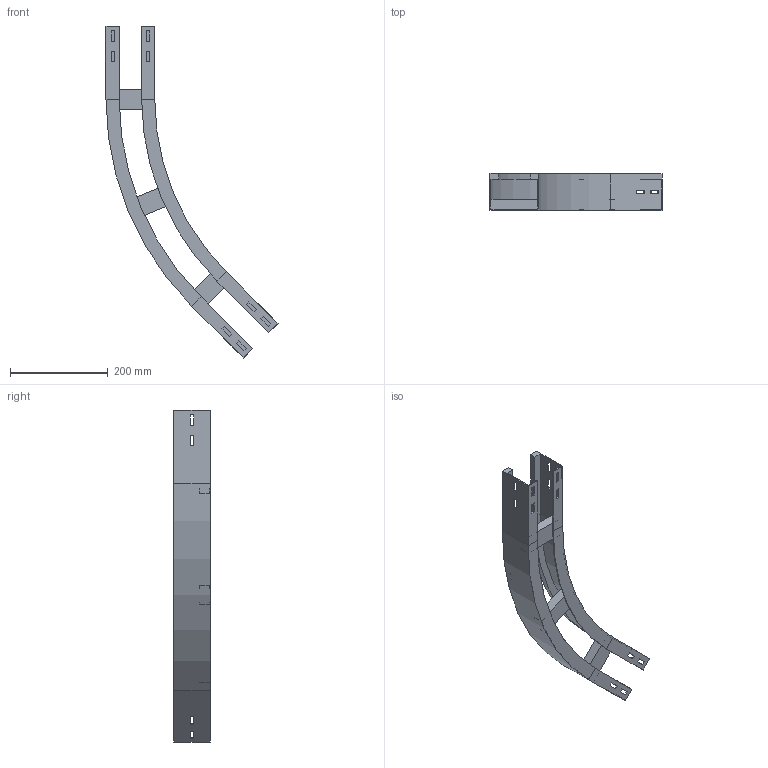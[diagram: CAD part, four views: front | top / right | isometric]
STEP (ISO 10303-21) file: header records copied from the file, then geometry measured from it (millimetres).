
FILE_DESCRIPTION (( 'STEP AP214' ), '1' );
FILE_NAME ('11B5C100.step', '2025-02-21T15:15:16', ( '' ), ( '' ), 'SwSTEP 2.0', 'SolidWorks 2023', '' );
FILE_SCHEMA (( 'AUTOMOTIVE_DESIGN' ));
Length unit declared in the file: millimetre
Products named in the file (4): 11B5C100; TRAVERSINO_100; A2_LONGH.ESTERNO 45°_H75_R500+100; A2_LONGH.INTERNO 45°_H75_R500
Assembly tree (5 placements, depth 2):
  11B5C100
    A2_LONGH.INTERNO 45°_H75_R500
    A2_LONGH.ESTERNO 45°_H75_R500+100
    TRAVERSINO_100  x3
Bounding box: 352.51 x 75 x 680.33 mm (x, y, z)
Volume: 802215.7 mm3; surface area: 383693.4 mm2
Topology: 5 solids, 5 shells, 134 faces, 340 edges, 216 vertices
Faces by surface type: plane 126, cylinder 8
Entity records: 3821 total; most frequent: CARTESIAN_POINT 646, ORIENTED_EDGE 632, DIRECTION 592, EDGE_CURVE 316, VECTOR 300, LINE 300, VERTEX_POINT 200, EDGE_LOOP 154
